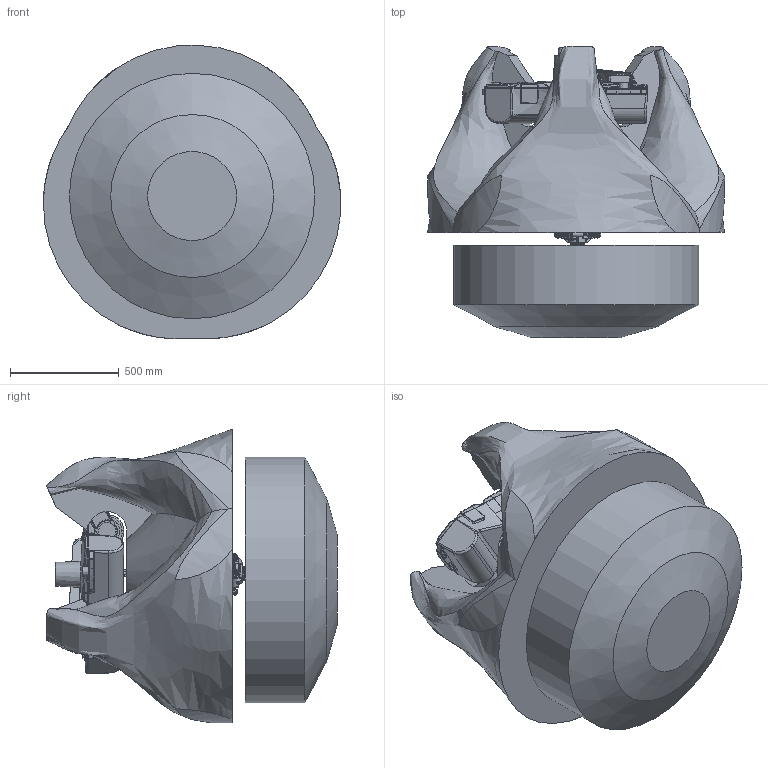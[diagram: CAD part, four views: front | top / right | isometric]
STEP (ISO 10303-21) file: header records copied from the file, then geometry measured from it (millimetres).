
FILE_DESCRIPTION (( 'STEP AP203' ), '1' );
FILE_NAME ('17000-400_Hornet565.STEP', '2015-03-18T21:42:24', ( '' ), ( '' ), 'SwSTEP 2.0', 'SolidWorks 2015', '' );
FILE_SCHEMA (( 'CONFIG_CONTROL_DESIGN' ));
Length unit declared in the file: inch
Products named in the file (11): InnerArm-Hornet565_1; 17000-400_Hornet565; OuterArm-Hornet565_1; Platform_J4-Hornet565_1; Arm Travel Volume-Hornet565-Import_1; Workspace-Hornet565_1; J4 Drive Shaft-2-Hornet565_1; J4 Drive Shaft-4-Hornet565_1; J4 Drive Shaft-3-Hornet565_1; Base-Hornet565_1; J4 Drive Shaft-1-Hornet565_1
Assembly tree (19 placements, depth 2):
  17000-400_Hornet565
    Base-Hornet565_1
    InnerArm-Hornet565_1  x3
    OuterArm-Hornet565_1  x6
    Platform_J4-Hornet565_1
    Arm Travel Volume-Hornet565-Import_1
    Workspace-Hornet565_1
    J4 Drive Shaft-2-Hornet565_1  x2
    J4 Drive Shaft-4-Hornet565_1  x2
    J4 Drive Shaft-3-Hornet565_1
    J4 Drive Shaft-1-Hornet565_1
Bounding box: 1368.59 x 1339.66 x 1351.7 mm (x, y, z)
Volume: 952254405.1 mm3; surface area: 10805246 mm2
Topology: 72 solids, 72 shells, 4095 faces, 10013 edges, 6145 vertices
Faces by surface type: bspline 1555, cylinder 1144, plane 1008, cone 384, torus 4
Full cylindrical faces by diameter (mm): 2.5 x6, 3 x3, 3.175 x24, 3.3 x12, 3.9 x4, 4.2 x10, 5 x22, 5.3 x4, 5.5 x24, 5.9 x4, 6 x5, 6.1 x1, 6.4 x21, 7.9 x3, 10 x7, 10.2 x3, 11 x8, 11.938 x12, 12.7 x12, 13 x6, 13.494 x8, 14 x2, 15 x1, 15.6 x1, 16 x3, 16.764 x6, 18 x3, 19.05 x12, 20.015 x12, 22 x11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
Entity records: 172637 total; most frequent: CARTESIAN_POINT 115420, ORIENTED_EDGE 13402, DIRECTION 8574, EDGE_CURVE 6701, VERTEX_POINT 4235, EDGE_LOOP 3440, AXIS2_PLACEMENT_3D 3436, FACE_OUTER_BOUND 3144
